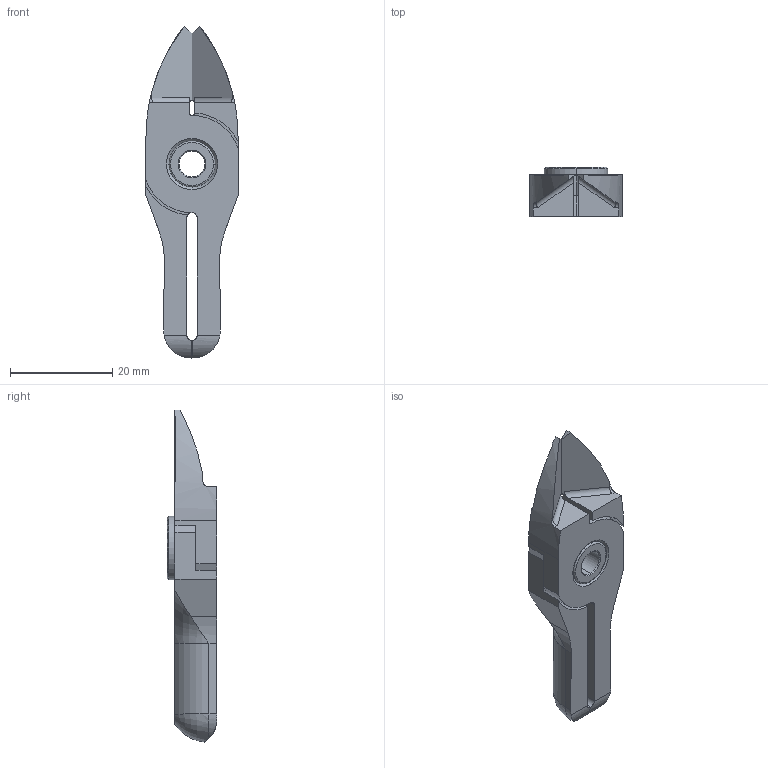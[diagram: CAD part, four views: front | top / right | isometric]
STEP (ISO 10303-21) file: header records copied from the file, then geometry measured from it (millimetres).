
FILE_DESCRIPTION (( 'STEP AP214' ), '1' );
FILE_NAME ('NY15AJ.STEP', '2019-11-28T03:21:26', ( '微软用户' ), ( '微软中国' ), 'SwSTEP 2.0', 'SolidWorks 2016', '' );
FILE_SCHEMA (( 'AUTOMOTIVE_DESIGN' ));
Length unit declared in the file: millimetre
Products named in the file (1): NY15AJ
Bounding box: 18 x 9.7 x 64.94 mm (x, y, z)
Surface area: 4638.8 mm2 (no closed solid volume)
Topology: 0 solids, 4 shells, 126 faces, 336 edges, 214 vertices
Faces by surface type: cylinder 52, plane 41, cone 22, torus 9, bspline 2
Entity records: 4513 total; most frequent: CARTESIAN_POINT 1337, DIRECTION 683, ORIENTED_EDGE 640, EDGE_CURVE 332, AXIS2_PLACEMENT_3D 263, VERTEX_POINT 214, VECTOR 157, LINE 157
